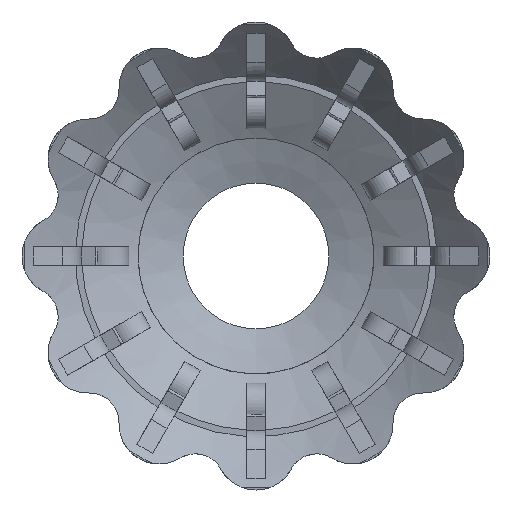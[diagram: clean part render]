
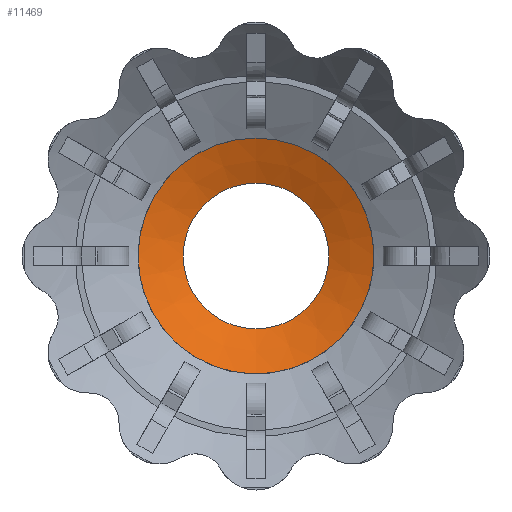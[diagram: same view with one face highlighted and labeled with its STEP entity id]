
A CAD part, front view. The second image highlights one B-rep face of the part: STEP entity #11469.
In plain terms, the highlighted conical face has half-angle 68.366 degrees and reference radius 9.575 mm.
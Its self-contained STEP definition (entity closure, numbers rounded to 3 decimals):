
#252 = DIRECTION ( 'NONE',  ( 0., 0., 1. ) ) ;
#692 = CARTESIAN_POINT ( 'NONE',  ( 0., 15.5, 0. ) ) ;
#744 = EDGE_LOOP ( 'NONE', ( #3232 ) ) ;
#951 = CARTESIAN_POINT ( 'NONE',  ( 0., 13.15, 0. ) ) ;
#994 = EDGE_LOOP ( 'NONE', ( #4341 ) ) ;
#1465 = CARTESIAN_POINT ( 'NONE',  ( 0., 15.5, 9.575 ) ) ;
#1665 = CIRCLE ( 'NONE', #3606, 9.575 ) ;
#2215 = VERTEX_POINT ( 'NONE', #10558 ) ;
#3232 = ORIENTED_EDGE ( 'NONE', *, *, #10429, .T. ) ;
#3526 = AXIS2_PLACEMENT_3D ( 'NONE', #692, #10749, #7081 ) ;
#3606 = AXIS2_PLACEMENT_3D ( 'NONE', #5272, #7238, #252 ) ;
#4341 = ORIENTED_EDGE ( 'NONE', *, *, #7044, .F. ) ;
#4612 = CONICAL_SURFACE ( 'NONE', #3526, 9.575, 1.193 ) ;
#5114 = FACE_BOUND ( 'NONE', #744, .T. ) ;
#5272 = CARTESIAN_POINT ( 'NONE',  ( 0., 15.5, 0. ) ) ;
#7044 = EDGE_CURVE ( 'NONE', #2215, #2215, #9025, .T. ) ;
#7081 = DIRECTION ( 'NONE',  ( 0., 0., -1. ) ) ;
#7238 = DIRECTION ( 'NONE',  ( 0., 1., 0. ) ) ;
#7342 = DIRECTION ( 'NONE',  ( 0., 1., 0. ) ) ;
#8868 = AXIS2_PLACEMENT_3D ( 'NONE', #951, #7342, #9857 ) ;
#9025 = CIRCLE ( 'NONE', #8868, 15.5 ) ;
#9857 = DIRECTION ( 'NONE',  ( 0., 0., 1. ) ) ;
#10429 = EDGE_CURVE ( 'NONE', #10968, #10968, #1665, .T. ) ;
#10558 = CARTESIAN_POINT ( 'NONE',  ( 0., 13.15, 15.5 ) ) ;
#10749 = DIRECTION ( 'NONE',  ( 0., -1., 0. ) ) ;
#10936 = FACE_OUTER_BOUND ( 'NONE', #994, .T. ) ;
#10968 = VERTEX_POINT ( 'NONE', #1465 ) ;
#11469 = ADVANCED_FACE ( 'NONE', ( #10936, #5114 ), #4612, .F. ) ;
